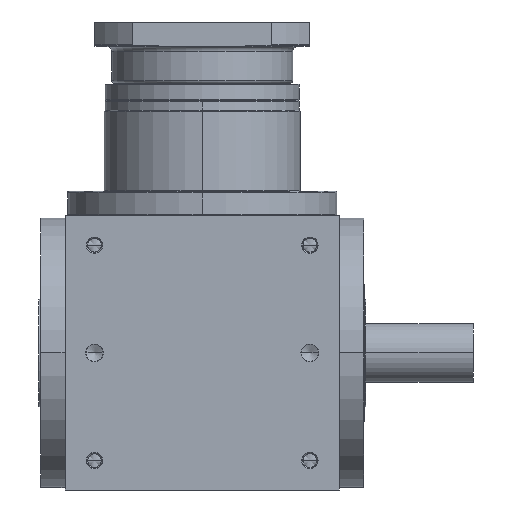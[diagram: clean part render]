
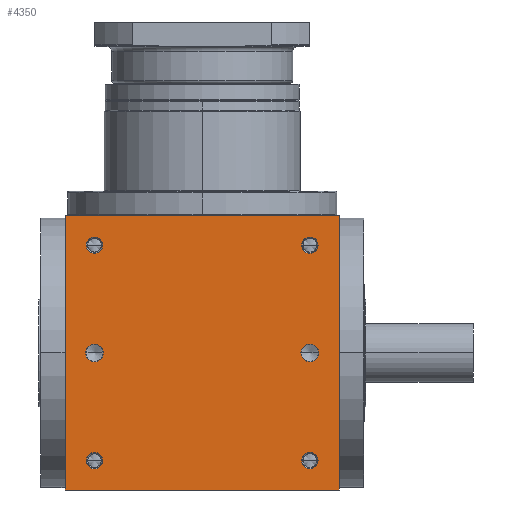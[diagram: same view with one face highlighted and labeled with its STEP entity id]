
A CAD part, front view. The second image highlights one B-rep face of the part: STEP entity #4350.
In plain terms, the highlighted planar face has unit normal (0, -1, 0).
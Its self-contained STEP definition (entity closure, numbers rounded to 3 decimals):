
#5=DIRECTION('',(1.,0.,0.));
#6=VECTOR('',#5,280.);
#7=CARTESIAN_POINT('',(-140.,-140.,-140.));
#8=LINE('',#7,#6);
#155=DIRECTION('',(0.,0.,1.));
#156=VECTOR('',#155,280.);
#157=CARTESIAN_POINT('',(140.,-140.,-140.));
#158=LINE('',#157,#156);
#209=DIRECTION('',(0.,0.,1.));
#210=VECTOR('',#209,280.);
#211=CARTESIAN_POINT('',(-140.,-140.,-140.));
#212=LINE('',#211,#210);
#213=CARTESIAN_POINT('',(110.,-140.,110.));
#214=DIRECTION('',(0.,1.,0.));
#215=DIRECTION('',(-1.,0.,0.));
#216=AXIS2_PLACEMENT_3D('',#213,#214,#215);
#218=CARTESIAN_POINT('',(110.,-140.,110.));
#219=DIRECTION('',(0.,1.,0.));
#220=DIRECTION('',(1.,0.,0.));
#221=AXIS2_PLACEMENT_3D('',#218,#219,#220);
#223=CARTESIAN_POINT('',(-110.,-140.,110.));
#224=DIRECTION('',(0.,1.,0.));
#225=DIRECTION('',(-1.,0.,0.));
#226=AXIS2_PLACEMENT_3D('',#223,#224,#225);
#228=CARTESIAN_POINT('',(-110.,-140.,110.));
#229=DIRECTION('',(0.,1.,0.));
#230=DIRECTION('',(1.,0.,0.));
#231=AXIS2_PLACEMENT_3D('',#228,#229,#230);
#233=CARTESIAN_POINT('',(110.,-140.,-110.));
#234=DIRECTION('',(0.,1.,0.));
#235=DIRECTION('',(-1.,0.,0.));
#236=AXIS2_PLACEMENT_3D('',#233,#234,#235);
#238=CARTESIAN_POINT('',(110.,-140.,-110.));
#239=DIRECTION('',(0.,1.,0.));
#240=DIRECTION('',(1.,0.,0.));
#241=AXIS2_PLACEMENT_3D('',#238,#239,#240);
#243=CARTESIAN_POINT('',(-110.,-140.,-110.));
#244=DIRECTION('',(0.,1.,0.));
#245=DIRECTION('',(-1.,0.,0.));
#246=AXIS2_PLACEMENT_3D('',#243,#244,#245);
#248=CARTESIAN_POINT('',(-110.,-140.,-110.));
#249=DIRECTION('',(0.,1.,0.));
#250=DIRECTION('',(1.,0.,0.));
#251=AXIS2_PLACEMENT_3D('',#248,#249,#250);
#253=CARTESIAN_POINT('',(-110.,-140.,0.));
#254=DIRECTION('',(0.,1.,0.));
#255=DIRECTION('',(1.,0.,0.));
#256=AXIS2_PLACEMENT_3D('',#253,#254,#255);
#258=CARTESIAN_POINT('',(-110.,-140.,0.));
#259=DIRECTION('',(0.,1.,0.));
#260=DIRECTION('',(-1.,0.,0.));
#261=AXIS2_PLACEMENT_3D('',#258,#259,#260);
#263=CARTESIAN_POINT('',(110.,-140.,0.));
#264=DIRECTION('',(0.,1.,0.));
#265=DIRECTION('',(1.,0.,0.));
#266=AXIS2_PLACEMENT_3D('',#263,#264,#265);
#268=CARTESIAN_POINT('',(110.,-140.,0.));
#269=DIRECTION('',(0.,1.,0.));
#270=DIRECTION('',(-1.,0.,0.));
#271=AXIS2_PLACEMENT_3D('',#268,#269,#270);
#285=DIRECTION('',(1.,0.,0.));
#286=VECTOR('',#285,280.);
#287=CARTESIAN_POINT('',(-140.,-140.,140.));
#288=LINE('',#287,#286);
#3468=CARTESIAN_POINT('',(-140.,-140.,-140.));
#3470=VERTEX_POINT('',#3468);
#3471=CARTESIAN_POINT('',(140.,-140.,-140.));
#3472=VERTEX_POINT('',#3471);
#3476=CARTESIAN_POINT('',(-140.,-140.,140.));
#3478=VERTEX_POINT('',#3476);
#3479=CARTESIAN_POINT('',(140.,-140.,140.));
#3480=VERTEX_POINT('',#3479);
#3651=CARTESIAN_POINT('',(101.6,-140.,110.));
#3652=CARTESIAN_POINT('',(118.4,-140.,110.));
#3653=VERTEX_POINT('',#3651);
#3654=VERTEX_POINT('',#3652);
#3659=CARTESIAN_POINT('',(-118.4,-140.,110.));
#3660=CARTESIAN_POINT('',(-101.6,-140.,110.));
#3661=VERTEX_POINT('',#3659);
#3662=VERTEX_POINT('',#3660);
#3667=CARTESIAN_POINT('',(101.6,-140.,-110.));
#3668=CARTESIAN_POINT('',(118.4,-140.,-110.));
#3669=VERTEX_POINT('',#3667);
#3670=VERTEX_POINT('',#3668);
#3675=CARTESIAN_POINT('',(-118.4,-140.,-110.));
#3676=CARTESIAN_POINT('',(-101.6,-140.,-110.));
#3677=VERTEX_POINT('',#3675);
#3678=VERTEX_POINT('',#3676);
#3999=CARTESIAN_POINT('',(-100.95,-140.,
0.));
#4000=CARTESIAN_POINT('',(-119.05,-140.,
0.));
#4001=VERTEX_POINT('',#3999);
#4002=VERTEX_POINT('',#4000);
#4007=CARTESIAN_POINT('',(119.05,-140.,0.));
#4008=CARTESIAN_POINT('',(100.95,-140.,0.));
#4009=VERTEX_POINT('',#4007);
#4010=VERTEX_POINT('',#4008);
#4302=CARTESIAN_POINT('',(-140.,-140.,-140.));
#4303=DIRECTION('',(0.,-1.,0.));
#4304=DIRECTION('',(1.,0.,0.));
#4305=AXIS2_PLACEMENT_3D('',#4302,#4303,#4304);
#4306=PLANE('',#4305);
#4307=ORIENTED_EDGE('',*,*,#4142,.F.);
#4308=ORIENTED_EDGE('',*,*,#4185,.T.);
#4310=ORIENTED_EDGE('',*,*,#4309,.T.);
#4311=ORIENTED_EDGE('',*,*,#4264,.F.);
#4312=EDGE_LOOP('',(#4307,#4308,#4310,#4311));
#4313=FACE_OUTER_BOUND('',#4312,.F.);
#4315=ORIENTED_EDGE('',*,*,#4314,.F.);
#4317=ORIENTED_EDGE('',*,*,#4316,.F.);
#4318=EDGE_LOOP('',(#4315,#4317));
#4319=FACE_BOUND('',#4318,.F.);
#4321=ORIENTED_EDGE('',*,*,#4320,.F.);
#4323=ORIENTED_EDGE('',*,*,#4322,.F.);
#4324=EDGE_LOOP('',(#4321,#4323));
#4325=FACE_BOUND('',#4324,.F.);
#4327=ORIENTED_EDGE('',*,*,#4326,.F.);
#4329=ORIENTED_EDGE('',*,*,#4328,.F.);
#4330=EDGE_LOOP('',(#4327,#4329));
#4331=FACE_BOUND('',#4330,.F.);
#4333=ORIENTED_EDGE('',*,*,#4332,.F.);
#4335=ORIENTED_EDGE('',*,*,#4334,.F.);
#4336=EDGE_LOOP('',(#4333,#4335));
#4337=FACE_BOUND('',#4336,.F.);
#4339=ORIENTED_EDGE('',*,*,#4338,.F.);
#4341=ORIENTED_EDGE('',*,*,#4340,.F.);
#4342=EDGE_LOOP('',(#4339,#4341));
#4343=FACE_BOUND('',#4342,.F.);
#4345=ORIENTED_EDGE('',*,*,#4344,.F.);
#4347=ORIENTED_EDGE('',*,*,#4346,.F.);
#4348=EDGE_LOOP('',(#4345,#4347));
#4349=FACE_BOUND('',#4348,.F.);
#4350=ADVANCED_FACE('',(#4313,#4319,#4325,#4331,#4337,#4343,#4349),#4306,.T.);
#217=CIRCLE('',#216,8.4);
#222=CIRCLE('',#221,8.4);
#227=CIRCLE('',#226,8.4);
#232=CIRCLE('',#231,8.4);
#237=CIRCLE('',#236,8.4);
#242=CIRCLE('',#241,8.4);
#247=CIRCLE('',#246,8.4);
#252=CIRCLE('',#251,8.4);
#257=CIRCLE('',#256,9.05);
#262=CIRCLE('',#261,9.05);
#267=CIRCLE('',#266,9.05);
#272=CIRCLE('',#271,9.05);
#4142=EDGE_CURVE('',#3470,#3472,#8,.T.);
#4185=EDGE_CURVE('',#3470,#3478,#212,.T.);
#4264=EDGE_CURVE('',#3472,#3480,#158,.T.);
#4309=EDGE_CURVE('',#3478,#3480,#288,.T.);
#4314=EDGE_CURVE('',#3653,#3654,#217,.T.);
#4316=EDGE_CURVE('',#3654,#3653,#222,.T.);
#4320=EDGE_CURVE('',#3661,#3662,#227,.T.);
#4322=EDGE_CURVE('',#3662,#3661,#232,.T.);
#4326=EDGE_CURVE('',#3669,#3670,#237,.T.);
#4328=EDGE_CURVE('',#3670,#3669,#242,.T.);
#4332=EDGE_CURVE('',#3677,#3678,#247,.T.);
#4334=EDGE_CURVE('',#3678,#3677,#252,.T.);
#4338=EDGE_CURVE('',#4001,#4002,#257,.T.);
#4340=EDGE_CURVE('',#4002,#4001,#262,.T.);
#4344=EDGE_CURVE('',#4009,#4010,#267,.T.);
#4346=EDGE_CURVE('',#4010,#4009,#272,.T.);
